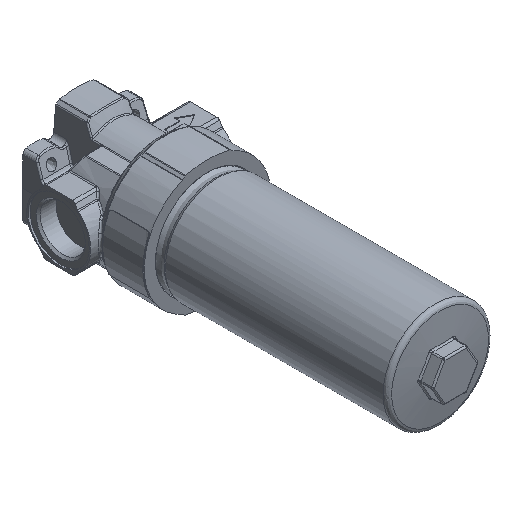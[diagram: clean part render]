
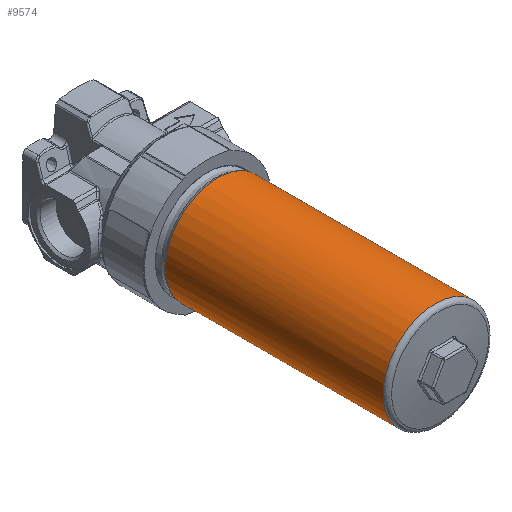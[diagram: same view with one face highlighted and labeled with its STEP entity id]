
A CAD part, isometric view. The second image highlights one B-rep face of the part: STEP entity #9574.
In plain terms, the highlighted free-form (B-spline) face has degree [2, 1] with [7, 2] control points.
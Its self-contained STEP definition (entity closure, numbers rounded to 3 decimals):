
#9464=CARTESIAN_POINT('V62',(-35.25,
   -157.002,0.0));
#9465=VERTEX_POINT('V62',#9464);
#9479=CARTESIAN_POINT('E87',(-35.25,
   -157.002,0.0));
#9480=CARTESIAN_POINT('E87',(-35.25,
   -157.002,1.73));
#9481=CARTESIAN_POINT('E87',(-34.995,
   -157.002,5.193));
#9482=CARTESIAN_POINT('E87',(-33.854,
   -157.002,10.272));
#9483=CARTESIAN_POINT('E87',(-31.979,
   -157.002,15.13));
#9484=CARTESIAN_POINT('E87',(-29.412,
   -157.002,19.659));
#9485=CARTESIAN_POINT('E87',(-26.208,
   -157.002,23.763));
#9486=CARTESIAN_POINT('E87',(-22.437,
   -157.002,27.353));
#9487=CARTESIAN_POINT('E87',(-18.179,
   -157.002,30.35));
#9488=CARTESIAN_POINT('E87',(-13.111,
   -157.002,32.899));
#9489=CARTESIAN_POINT('E87',(-7.232,-157.002,
   34.711));
#9490=CARTESIAN_POINT('E87',(-0.655,-157.002,
   35.45));
#9491=CARTESIAN_POINT('E87',(5.946,-157.002,
   34.954));
#9492=CARTESIAN_POINT('E87',(12.605,-157.002,
   33.169));
#9493=CARTESIAN_POINT('E87',(19.035,-157.002,
   29.978));
#9494=CARTESIAN_POINT('E87',(24.744,-157.002,
   25.447));
#9495=CARTESIAN_POINT('E87',(29.312,-157.002,
   19.987));
#9496=CARTESIAN_POINT('E87',(32.648,-157.002,
   13.884));
#9497=CARTESIAN_POINT('E87',(34.729,-157.002,
   7.248));
#9498=CARTESIAN_POINT('E87',(35.469,-157.002,
   0.398));
#9499=CARTESIAN_POINT('E87',(34.883,-157.002,
   -6.399));
#9500=CARTESIAN_POINT('E87',(33.036,-157.002,
   -12.898));
#9501=CARTESIAN_POINT('E87',(29.99,-157.002,
   -18.93));
#9502=CARTESIAN_POINT('E87',(25.9,-157.002,
   -24.216));
#9503=CARTESIAN_POINT('E87',(20.952,-157.002,
   -28.597));
#9504=CARTESIAN_POINT('E87',(15.346,-157.002,
   -31.958));
#9505=CARTESIAN_POINT('E87',(9.218,-157.002,
   -34.231));
#9506=CARTESIAN_POINT('E87',(1.89,-157.002,
   -35.495));
#9507=CARTESIAN_POINT('E87',(-6.474,-157.002,
   -35.061));
#9508=CARTESIAN_POINT('E87',(-14.427,
   -157.002,-32.485));
#9509=CARTESIAN_POINT('E87',(-20.796,
   -157.002,-28.707));
#9510=CARTESIAN_POINT('E87',(-25.742,
   -157.002,-24.381));
#9511=CARTESIAN_POINT('E87',(-29.849,
   -157.002,-19.148));
#9512=CARTESIAN_POINT('E87',(-32.93,
   -157.002,-13.162));
#9513=CARTESIAN_POINT('E87',(-34.824,
   -157.002,-6.702));
#9514=CARTESIAN_POINT('E87',(-35.25,
   -157.002,-2.233));
#9515=CARTESIAN_POINT('E87',(-35.25,
   -157.002,0.0));
#9516=B_SPLINE_CURVE_WITH_KNOTS('E87',3,(#9479,#9480,#9481,#9482,
   #9483,#9484,#9485,#9486,#9487,#9488,#9489,#9490,#9491,#9492,#9493,
   #9494,#9495,#9496,#9497,#9498,#9499,#9500,#9501,#9502,#9503,#9504,
   #9505,#9506,#9507,#9508,#9509,#9510,#9511,#9512,#9513,#9514,#9515),
   .UNSPECIFIED.,.T.,.U.,(4,1,1,1,1,1,1,1,1,1,1,1,1,1,1,1,1,1,1,1,1,
   1,1,1,1,1,1,1,1,1,1,1,1,1,4),(2.0,3.067,
   4.134,5.201,6.269,
   7.336,8.403,9.47,
   10.537,11.891,13.246,
   14.6,15.954,17.477,
   19.,20.422,21.845,
   23.267,24.689,26.071,
   27.453,28.836,30.218,
   31.555,32.892,34.23,
   35.567,37.457,39.347,
   40.675,42.003,43.381,
   44.758,46.135,47.512),
   .UNSPECIFIED.);
#9517=EDGE_CURVE('E87',#9465,#9465,#9516,.T.);
#9524=CARTESIAN_POINT('F32',(-35.25,-10.871,
   0.0));
#9525=CARTESIAN_POINT('F32',(-35.25,-10.871,
   -61.055));
#9526=CARTESIAN_POINT('F32',(17.625,-10.871,
   -30.527));
#9527=CARTESIAN_POINT('F32',(70.5,-10.871,
   0.));
#9528=CARTESIAN_POINT('F32',(17.625,-10.871,
   30.527));
#9529=CARTESIAN_POINT('F32',(-35.25,-10.871,
   61.055));
#9530=CARTESIAN_POINT('F32',(-35.25,-10.871,
   0.0));
#9531=CARTESIAN_POINT('F32',(-35.25,
   -159.751,0.0));
#9532=CARTESIAN_POINT('F32',(-35.25,
   -159.751,-61.055));
#9533=CARTESIAN_POINT('F32',(17.625,-159.751,
   -30.527));
#9534=CARTESIAN_POINT('F32',(70.5,-159.751,
   0.));
#9535=CARTESIAN_POINT('F32',(17.625,-159.751,
   30.527));
#9536=CARTESIAN_POINT('F32',(-35.25,
   -159.751,61.055));
#9537=CARTESIAN_POINT('F32',(-35.25,
   -159.751,0.0));
#9545=(BOUNDED_SURFACE()B_SPLINE_SURFACE(2,1,((#9524,#9531),(
   #9525,#9532),(#9526,#9533),(#9527,#9534),(#9528,#9535),(
   #9529,#9536),(#9530,#9537)),.CYLINDRICAL_SURF.,.T.,.F.,.U.)
   B_SPLINE_SURFACE_WITH_KNOTS((3,2,2,3),(2,2),(0.0,
   0.82,1.64,2.461),(0.0,1.0),
   .UNSPECIFIED.)GEOMETRIC_REPRESENTATION_ITEM()
   RATIONAL_B_SPLINE_SURFACE(((1.0,1.0),(0.5,
   0.5),(1.0,1.0),(0.5,
   0.5),(1.0,1.0),(0.5,
   0.5),(1.0,1.0)))REPRESENTATION_ITEM('F32')SURFACE(
   ));
#9546=ORIENTED_EDGE('E87',*,*,#9517,.T.);
#9547=CARTESIAN_POINT('V63',(-35.25,-10.871,
   0.0));
#9548=VERTEX_POINT('V63',#9547);
#9549=CARTESIAN_POINT('E91',(-35.25,
   -157.002,0.0));
#9550=CARTESIAN_POINT('E91',(-35.25,-10.871,
   0.0));
#9551=B_SPLINE_CURVE_WITH_KNOTS('E91',1,(#9549,#9550),
   .POLYLINE_FORM.,.F.,.U.,(2,2),(0.018,1.0),
   .UNSPECIFIED.);
#9552=EDGE_CURVE('E91',#9465,#9548,#9551,.T.);
#9553=ORIENTED_EDGE('E91',*,*,#9552,.T.);
#9554=CARTESIAN_POINT('E90',(-35.25,-10.871,
   0.0));
#9555=CARTESIAN_POINT('E90',(-35.25,-10.871,
   -61.055));
#9556=CARTESIAN_POINT('E90',(17.625,-10.871,
   -30.527));
#9557=CARTESIAN_POINT('E90',(70.5,-10.871,
   0.));
#9558=CARTESIAN_POINT('E90',(17.625,-10.871,
   30.527));
#9559=CARTESIAN_POINT('E90',(-35.25,-10.871,
   61.055));
#9560=CARTESIAN_POINT('E90',(-35.25,-10.871,
   0.0));
#9568=(BOUNDED_CURVE()B_SPLINE_CURVE(2,(#9554,#9555,#9556,#9557,
   #9558,#9559,#9560),.CIRCULAR_ARC.,.T.,.U.)
   B_SPLINE_CURVE_WITH_KNOTS((3,2,2,3),(0.0,0.82,
   1.64,2.461),.UNSPECIFIED.)CURVE()
   GEOMETRIC_REPRESENTATION_ITEM()RATIONAL_B_SPLINE_CURVE((1.0,
   0.5,1.0,0.5,1.0,0.5,1.0)
   )REPRESENTATION_ITEM('E90'));
#9569=EDGE_CURVE('E90',#9548,#9548,#9568,.T.);
#9570=ORIENTED_EDGE('E90',*,*,#9569,.T.);
#9571=ORIENTED_EDGE('E91',*,*,#9552,.F.);
#9572=EDGE_LOOP('F32',(#9546,#9553,#9570,#9571));
#9573=FACE_OUTER_BOUND('F32',#9572,.T.);
#9574=ADVANCED_FACE('F32',(#9573),#9545,.T.);
